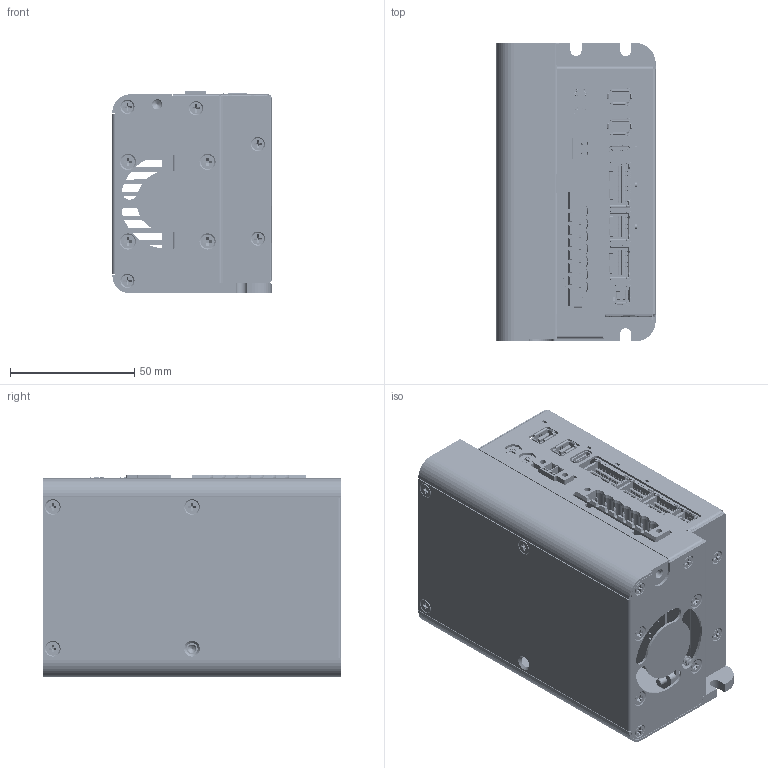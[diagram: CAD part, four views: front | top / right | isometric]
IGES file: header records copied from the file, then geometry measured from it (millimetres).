
Start section: SolidWorks IGES file using analytic representation for surfaces
Global section: file name: C:\Users\yakovs\Desktop\New folder\P-BAS_ECAT_FAN.IGS; native system: SolidWorks 2022; preprocessor: SolidWorks 2022; author: Yakovs; date: 240610.153504; units: millimetre
Bounding box: 64 x 120 x 81.5 mm (x, y, z)
Surface area: 179467.7 mm2 (no closed solid volume)
Topology: 0 solids, 0 shells, 11400 faces, 92896 edges, 92730 vertices
Faces by surface type: bspline 8657, revolution 2743
